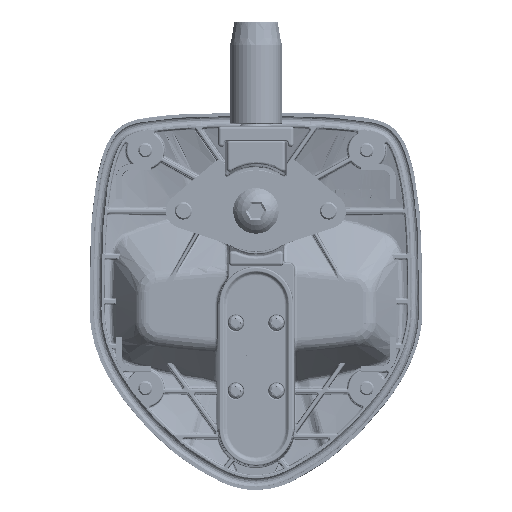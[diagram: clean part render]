
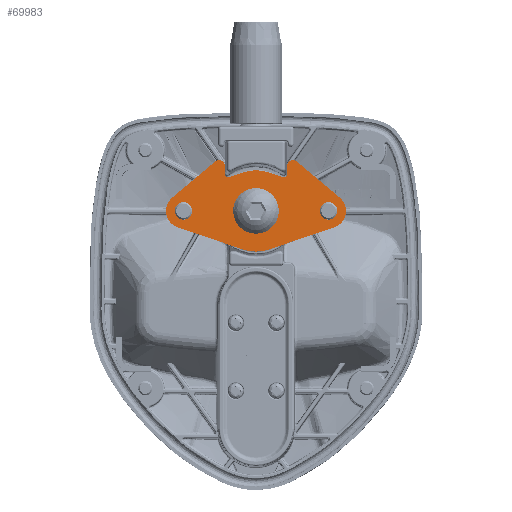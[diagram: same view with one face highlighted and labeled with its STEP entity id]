
A CAD part, top view. The second image highlights one B-rep face of the part: STEP entity #69983.
In plain terms, the highlighted planar face has unit normal (0, 0, 1).
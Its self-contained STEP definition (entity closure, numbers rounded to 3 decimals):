
#69355=DIRECTION('',(0.,1.,0.));
#69356=VECTOR('',#69355,2.961);
#69357=CARTESIAN_POINT('',(-10.75,-15.501,5.));
#69358=LINE('',#69357,#69356);
#69369=DIRECTION('',(-0.766,0.643,0.));
#69370=VECTOR('',#69369,19.348);
#69371=CARTESIAN_POINT('',(-14.036,-17.033,5.));
#69372=LINE('',#69371,#69370);
#69376=CARTESIAN_POINT('',(-25.,0.,5.));
#69377=DIRECTION('',(0.,0.,-1.));
#69378=DIRECTION('',(-0.643,-0.766,0.));
#69379=AXIS2_PLACEMENT_3D('',#69376,#69377,#69378);
#69384=CARTESIAN_POINT('',(-25.,0.,5.));
#69385=DIRECTION('',(0.,0.,-1.));
#69386=DIRECTION('',(-1.,0.,0.));
#69387=AXIS2_PLACEMENT_3D('',#69384,#69385,#69386);
#69392=DIRECTION('',(0.947,0.32,0.));
#69393=VECTOR('',#69392,23.685);
#69394=CARTESIAN_POINT('',(-26.92,5.685,5.));
#69395=LINE('',#69394,#69393);
#69399=CARTESIAN_POINT('',(0.,0.,5.));
#69400=DIRECTION('',(0.,0.,-1.));
#69401=DIRECTION('',(-0.32,0.947,0.));
#69402=AXIS2_PLACEMENT_3D('',#69399,#69400,#69401);
#69407=DIRECTION('',(0.947,-0.32,0.));
#69408=VECTOR('',#69407,23.685);
#69409=CARTESIAN_POINT('',(4.48,13.264,5.));
#69410=LINE('',#69409,#69408);
#69414=CARTESIAN_POINT('',(25.,0.,5.));
#69415=DIRECTION('',(0.,0.,-1.));
#69416=DIRECTION('',(0.32,0.947,0.));
#69417=AXIS2_PLACEMENT_3D('',#69414,#69415,#69416);
#69422=CARTESIAN_POINT('',(25.,0.,5.));
#69423=DIRECTION('',(0.,0.,-1.));
#69424=DIRECTION('',(1.,0.,0.));
#69425=AXIS2_PLACEMENT_3D('',#69422,#69423,#69424);
#69430=DIRECTION('',(-0.766,-0.643,0.));
#69431=VECTOR('',#69430,19.348);
#69432=CARTESIAN_POINT('',(28.857,-4.596,5.));
#69433=LINE('',#69432,#69431);
#69437=CARTESIAN_POINT('',(12.75,-15.501,5.));
#69438=DIRECTION('',(0.,0.,-1.));
#69439=DIRECTION('',(0.643,-0.766,0.));
#69440=AXIS2_PLACEMENT_3D('',#69437,#69438,#69439);
#69445=CARTESIAN_POINT('',(9.75,-12.539,5.));
#69446=DIRECTION('',(0.,0.,1.));
#69447=DIRECTION('',(1.,0.,0.));
#69448=AXIS2_PLACEMENT_3D('',#69445,#69446,#69447);
#69453=DIRECTION('',(-0.947,-0.32,0.));
#69454=VECTOR('',#69453,5.225);
#69455=CARTESIAN_POINT('',(9.43,-11.592,5.));
#69456=LINE('',#69455,#69454);
#69460=CARTESIAN_POINT('',(0.,0.,5.));
#69461=DIRECTION('',(0.,0.,-1.));
#69462=DIRECTION('',(0.32,-0.947,0.));
#69463=AXIS2_PLACEMENT_3D('',#69460,#69461,#69462);
#69468=DIRECTION('',(-0.947,0.32,0.));
#69469=VECTOR('',#69468,5.225);
#69470=CARTESIAN_POINT('',(-4.48,-13.264,5.));
#69471=LINE('',#69470,#69469);
#69475=CARTESIAN_POINT('',(-9.75,-12.539,5.));
#69476=DIRECTION('',(0.,0.,1.));
#69477=DIRECTION('',(0.32,0.947,0.));
#69478=AXIS2_PLACEMENT_3D('',#69475,#69476,#69477);
#69483=CARTESIAN_POINT('',(-12.75,-15.501,5.));
#69484=DIRECTION('',(0.,0.,-1.));
#69485=DIRECTION('',(1.,0.,0.));
#69486=AXIS2_PLACEMENT_3D('',#69483,#69484,#69485);
#69491=CARTESIAN_POINT('',(0.,0.,5.));
#69492=DIRECTION('',(0.,0.,1.));
#69493=DIRECTION('',(-1.,0.,0.));
#69494=AXIS2_PLACEMENT_3D('',#69491,#69492,#69493);
#69499=CARTESIAN_POINT('',(0.,0.,5.));
#69500=DIRECTION('',(0.,0.,1.));
#69501=DIRECTION('',(1.,0.,0.));
#69502=AXIS2_PLACEMENT_3D('',#69499,#69500,#69501);
#69507=CARTESIAN_POINT('',(25.,0.,5.));
#69508=DIRECTION('',(0.,0.,1.));
#69509=DIRECTION('',(-1.,0.,0.));
#69510=AXIS2_PLACEMENT_3D('',#69507,#69508,#69509);
#69515=CARTESIAN_POINT('',(25.,0.,5.));
#69516=DIRECTION('',(0.,0.,1.));
#69517=DIRECTION('',(1.,0.,0.));
#69518=AXIS2_PLACEMENT_3D('',#69515,#69516,#69517);
#69523=CARTESIAN_POINT('',(-25.,0.,5.));
#69524=DIRECTION('',(0.,0.,1.));
#69525=DIRECTION('',(1.,0.,0.));
#69526=AXIS2_PLACEMENT_3D('',#69523,#69524,#69525);
#69531=CARTESIAN_POINT('',(-25.,0.,5.));
#69532=DIRECTION('',(0.,0.,1.));
#69533=DIRECTION('',(-1.,0.,0.));
#69534=AXIS2_PLACEMENT_3D('',#69531,#69532,#69533);
#69588=DIRECTION('',(0.,-1.,0.));
#69589=VECTOR('',#69588,2.961);
#69590=CARTESIAN_POINT('',(10.75,-12.539,5.));
#69591=LINE('',#69590,#69589);
#69693=CARTESIAN_POINT('',(-28.857,-4.596,5.));
#69695=VERTEX_POINT('',#69693);
#69701=CARTESIAN_POINT('',(-26.92,5.685,5.));
#69702=VERTEX_POINT('',#69701);
#69703=CARTESIAN_POINT('',(-31.,0.,5.));
#69704=VERTEX_POINT('',#69703);
#69707=CARTESIAN_POINT('',(-14.036,-17.033,5.));
#69708=VERTEX_POINT('',#69707);
#69749=CARTESIAN_POINT('',(-10.75,-15.501,5.));
#69750=CARTESIAN_POINT('',(-10.75,-12.539,5.));
#69751=VERTEX_POINT('',#69749);
#69752=VERTEX_POINT('',#69750);
#69753=CARTESIAN_POINT('',(-4.48,13.264,5.));
#69754=VERTEX_POINT('',#69753);
#69755=CARTESIAN_POINT('',(4.48,13.264,5.));
#69756=VERTEX_POINT('',#69755);
#69757=CARTESIAN_POINT('',(26.92,5.685,5.));
#69758=VERTEX_POINT('',#69757);
#69759=CARTESIAN_POINT('',(31.,0.,5.));
#69760=VERTEX_POINT('',#69759);
#69761=CARTESIAN_POINT('',(28.857,-4.596,5.));
#69762=VERTEX_POINT('',#69761);
#69763=CARTESIAN_POINT('',(14.036,-17.033,5.));
#69764=VERTEX_POINT('',#69763);
#69765=CARTESIAN_POINT('',(10.75,-15.501,5.));
#69766=VERTEX_POINT('',#69765);
#69767=CARTESIAN_POINT('',(10.75,-12.539,5.));
#69768=VERTEX_POINT('',#69767);
#69769=CARTESIAN_POINT('',(9.43,-11.592,5.));
#69770=VERTEX_POINT('',#69769);
#69771=CARTESIAN_POINT('',(4.48,-13.264,5.));
#69772=VERTEX_POINT('',#69771);
#69773=CARTESIAN_POINT('',(-4.48,-13.264,5.));
#69774=VERTEX_POINT('',#69773);
#69775=CARTESIAN_POINT('',(-9.43,-11.592,5.));
#69776=VERTEX_POINT('',#69775);
#69777=CARTESIAN_POINT('',(-3.1,0.,5.));
#69778=CARTESIAN_POINT('',(3.1,0.,5.));
#69779=VERTEX_POINT('',#69777);
#69780=VERTEX_POINT('',#69778);
#69781=CARTESIAN_POINT('',(22.45,0.,5.));
#69782=CARTESIAN_POINT('',(27.55,0.,5.));
#69783=VERTEX_POINT('',#69781);
#69784=VERTEX_POINT('',#69782);
#69785=CARTESIAN_POINT('',(-22.45,0.,5.));
#69786=CARTESIAN_POINT('',(-27.55,0.,5.));
#69787=VERTEX_POINT('',#69785);
#69788=VERTEX_POINT('',#69786);
#69926=CARTESIAN_POINT('',(0.,0.,5.));
#69927=DIRECTION('',(0.,0.,1.));
#69928=DIRECTION('',(1.,0.,0.));
#69929=AXIS2_PLACEMENT_3D('',#69926,#69927,#69928);
#69930=PLANE('',#69929);
#69931=ORIENTED_EDGE('',*,*,#69824,.T.);
#69932=ORIENTED_EDGE('',*,*,#69804,.T.);
#69933=ORIENTED_EDGE('',*,*,#69802,.T.);
#69935=ORIENTED_EDGE('',*,*,#69934,.T.);
#69937=ORIENTED_EDGE('',*,*,#69936,.T.);
#69939=ORIENTED_EDGE('',*,*,#69938,.T.);
#69941=ORIENTED_EDGE('',*,*,#69940,.T.);
#69943=ORIENTED_EDGE('',*,*,#69942,.T.);
#69945=ORIENTED_EDGE('',*,*,#69944,.T.);
#69947=ORIENTED_EDGE('',*,*,#69946,.T.);
#69949=ORIENTED_EDGE('',*,*,#69948,.F.);
#69951=ORIENTED_EDGE('',*,*,#69950,.T.);
#69953=ORIENTED_EDGE('',*,*,#69952,.T.);
#69955=ORIENTED_EDGE('',*,*,#69954,.T.);
#69957=ORIENTED_EDGE('',*,*,#69956,.T.);
#69959=ORIENTED_EDGE('',*,*,#69958,.T.);
#69960=ORIENTED_EDGE('',*,*,#69909,.F.);
#69962=ORIENTED_EDGE('',*,*,#69961,.T.);
#69963=EDGE_LOOP('',(#69931,#69932,#69933,#69935,#69937,#69939,#69941,#69943,
#69945,#69947,#69949,#69951,#69953,#69955,#69957,#69959,#69960,#69962));
#69964=FACE_OUTER_BOUND('',#69963,.F.);
#69966=ORIENTED_EDGE('',*,*,#69965,.T.);
#69968=ORIENTED_EDGE('',*,*,#69967,.T.);
#69969=EDGE_LOOP('',(#69966,#69968));
#69970=FACE_BOUND('',#69969,.F.);
#69972=ORIENTED_EDGE('',*,*,#69971,.T.);
#69974=ORIENTED_EDGE('',*,*,#69973,.T.);
#69975=EDGE_LOOP('',(#69972,#69974));
#69976=FACE_BOUND('',#69975,.F.);
#69978=ORIENTED_EDGE('',*,*,#69977,.T.);
#69980=ORIENTED_EDGE('',*,*,#69979,.T.);
#69981=EDGE_LOOP('',(#69978,#69980));
#69982=FACE_BOUND('',#69981,.F.);
#69983=ADVANCED_FACE('',(#69964,#69970,#69976,#69982),#69930,.T.);
#69380=CIRCLE('',#69379,6.);
#69388=CIRCLE('',#69387,6.);
#69403=CIRCLE('',#69402,14.);
#69418=CIRCLE('',#69417,6.);
#69426=CIRCLE('',#69425,6.);
#69441=CIRCLE('',#69440,2.);
#69449=CIRCLE('',#69448,1.);
#69464=CIRCLE('',#69463,14.);
#69479=CIRCLE('',#69478,1.);
#69487=CIRCLE('',#69486,2.);
#69495=CIRCLE('',#69494,3.1);
#69503=CIRCLE('',#69502,3.1);
#69511=CIRCLE('',#69510,2.55);
#69519=CIRCLE('',#69518,2.55);
#69527=CIRCLE('',#69526,2.55);
#69535=CIRCLE('',#69534,2.55);
#69802=EDGE_CURVE('',#69704,#69702,#69388,.T.);
#69804=EDGE_CURVE('',#69695,#69704,#69380,.T.);
#69824=EDGE_CURVE('',#69708,#69695,#69372,.T.);
#69909=EDGE_CURVE('',#69751,#69752,#69358,.T.);
#69934=EDGE_CURVE('',#69702,#69754,#69395,.T.);
#69936=EDGE_CURVE('',#69754,#69756,#69403,.T.);
#69938=EDGE_CURVE('',#69756,#69758,#69410,.T.);
#69940=EDGE_CURVE('',#69758,#69760,#69418,.T.);
#69942=EDGE_CURVE('',#69760,#69762,#69426,.T.);
#69944=EDGE_CURVE('',#69762,#69764,#69433,.T.);
#69946=EDGE_CURVE('',#69764,#69766,#69441,.T.);
#69948=EDGE_CURVE('',#69768,#69766,#69591,.T.);
#69950=EDGE_CURVE('',#69768,#69770,#69449,.T.);
#69952=EDGE_CURVE('',#69770,#69772,#69456,.T.);
#69954=EDGE_CURVE('',#69772,#69774,#69464,.T.);
#69956=EDGE_CURVE('',#69774,#69776,#69471,.T.);
#69958=EDGE_CURVE('',#69776,#69752,#69479,.T.);
#69961=EDGE_CURVE('',#69751,#69708,#69487,.T.);
#69965=EDGE_CURVE('',#69779,#69780,#69495,.T.);
#69967=EDGE_CURVE('',#69780,#69779,#69503,.T.);
#69971=EDGE_CURVE('',#69783,#69784,#69511,.T.);
#69973=EDGE_CURVE('',#69784,#69783,#69519,.T.);
#69977=EDGE_CURVE('',#69787,#69788,#69527,.T.);
#69979=EDGE_CURVE('',#69788,#69787,#69535,.T.);
